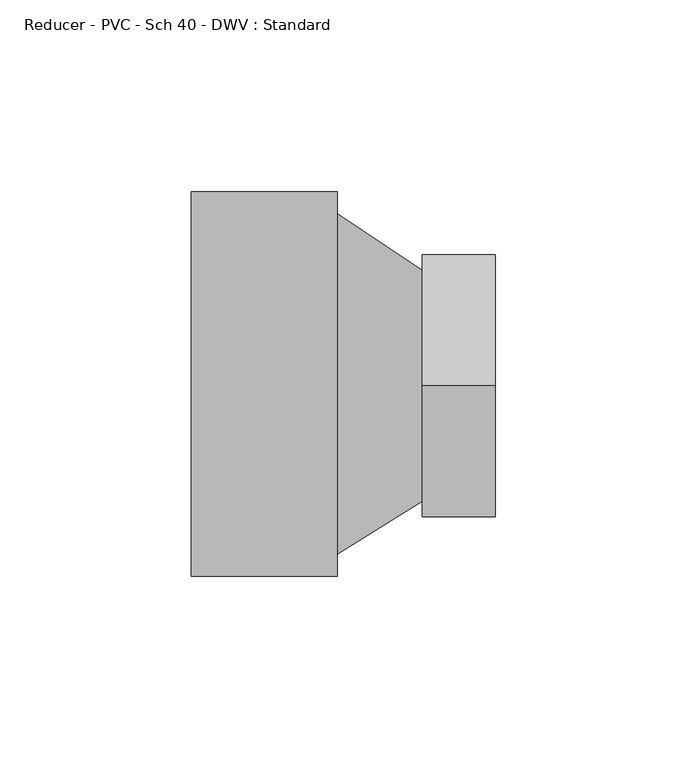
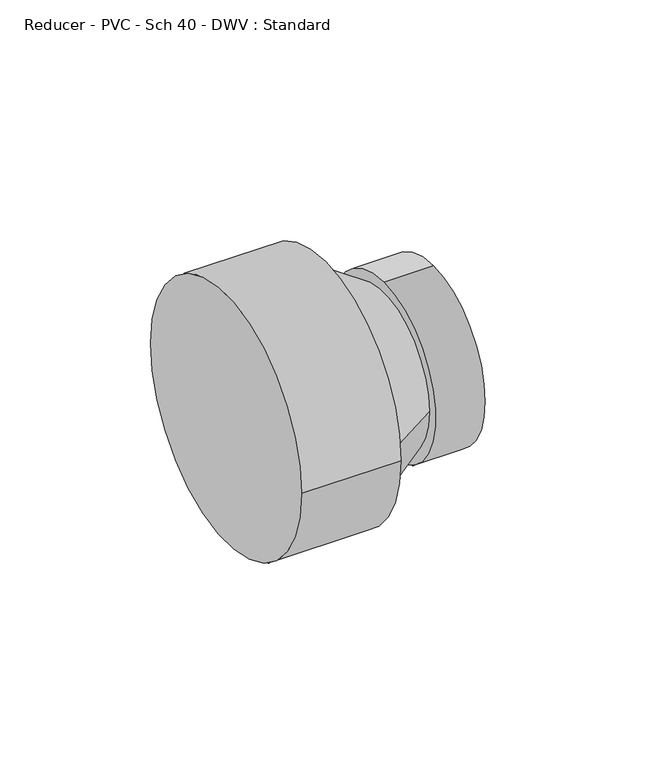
"""IFC4 building model written with IfcOpenShell, lengths in millimetres: pipe fitting geometry, Reducer - PVC - Sch 40 - DWV : Standard."""

from ifc_helpers import new_model, si_unit, frame, origin, place, context, project, spatial, circle_curve, source, transform, mapped, element, save
from ifc_brep_helpers import plane_surface, cylinder_surface, spline_surface, advanced_brep


def reducer_pvc_sch_40_dwv_standard_402c5ae0(model_context):
    return source(origin(), model_context, "Body", "AdvancedBrep", [
        advanced_brep(
        [(0.0, 50.2666, 0.0), (0.0, -50.2666, 0.0), (38.1, 50.2666, 0.0), (38.1, -50.2666, 0.0), (38.1, -44.45, 0.0), (38.1, 44.45, 0.0), (60.325, 29.7625, 0.0), (60.325, -30.5625, 0.0), (60.325, -0.4, 34.3154), (60.325, -0.4, -34.3154), (79.375, -0.4, 34.3154), (79.375, -0.4, -34.3154)],
        [
            (0, 1, circle_curve(frame((0.0, 0.0, 0.0), z_axis=(-1.0, 0.0, 0.0), x_axis=(0.0, -1.0, 0.0)), 50.2666)),
            (1, 0, circle_curve(frame((0.0, 0.0, 0.0), z_axis=(-1.0, 0.0, 0.0), x_axis=(0.0, -1.0, 0.0)), 50.2666)),
            (2, 3, circle_curve(frame((38.1, 0.0, 0.0), z_axis=(1.0, 0.0, 0.0), x_axis=(0.0, -1.0, 0.0)), 50.2666)),
            (3, 2, circle_curve(frame((38.1, 0.0, 0.0), z_axis=(1.0, 0.0, 0.0), x_axis=(0.0, -1.0, 0.0)), 50.2666)),
            (4, 5, circle_curve(frame((38.1, 0.0, 0.0), z_axis=(-1.0, 0.0, 0.0), x_axis=(0.0, -1.0, 0.0)), 44.45)),
            (5, 4, circle_curve(frame((38.1, 0.0, 0.0), z_axis=(-1.0, 0.0, 0.0), x_axis=(0.0, -1.0, 0.0)), 44.45)),
            (1, 3),
            (2, 0),
            (5, 6),
            (6, 7, circle_curve(frame((60.325, -0.4, 0.0), z_axis=(-1.0, 0.0, 0.0), x_axis=(0.0, -1.0, 0.0)), 30.1625)),
            (7, 4),
            (7, 6, circle_curve(frame((60.325, -0.4, 0.0), z_axis=(-1.0, 0.0, 0.0), x_axis=(0.0, -1.0, 0.0)), 30.1625)),
            (8, 9, circle_curve(frame((60.325, -0.4, 0.0), z_axis=(-1.0, 0.0, 0.0), x_axis=(0.0, 0.0, -1.0)), 34.3154)),
            (9, 8, circle_curve(frame((60.325, -0.4, 0.0), z_axis=(-1.0, 0.0, 0.0), x_axis=(0.0, 0.0, -1.0)), 34.3154)),
            (10, 11, circle_curve(frame((79.375, -0.4, 0.0), z_axis=(1.0, 0.0, 0.0), x_axis=(0.0, 0.0, -1.0)), 34.3154)),
            (11, 10, circle_curve(frame((79.375, -0.4, 0.0), z_axis=(1.0, 0.0, 0.0), x_axis=(0.0, 0.0, -1.0)), 34.3154)),
            (9, 11),
            (10, 8),
        ],
        [
            plane_surface(frame((0.0, 0.0, 0.0), z_axis=(-1.0, 0.0, 0.0), x_axis=(0.0, 0.0, 1.0))),
            plane_surface(frame((38.1, 0.0, 0.0), z_axis=(1.0, 0.0, 0.0), x_axis=(0.0, 0.0, 1.0))),
            cylinder_surface(frame((0.0, 0.0, 0.0), z_axis=(-1.0, 0.0, 0.0), x_axis=(0.0, -1.0, 0.0)), 50.2666),
            spline_surface(1, 2, [[(38.1, 44.45, 0.0), (38.1, 44.45, -44.45), (38.1, 0.0, -44.45), (38.1, -44.45, -44.45), (38.1, -44.45, 0.0)], [(60.325, 29.7625, 0.0), (60.325, 29.7625, -30.162499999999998), (60.325, -0.4, -30.162499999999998), (60.325, -30.562499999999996, -30.162499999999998), (60.325, -30.5625, 0.0)]], [2, 2], [3, 2, 3], [0.0, 1.0], [0.0, 1.0, 2.0], weights=[[1.0, 0.7071067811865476, 1.0, 0.7071067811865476, 1.0], [1.0, 0.7071067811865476, 1.0, 0.7071067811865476, 1.0]]),
            spline_surface(1, 2, [[(38.1, -44.45, 0.0), (38.1, -44.45, 44.45), (38.1, 0.0, 44.45), (38.1, 44.45, 44.45), (38.1, 44.45, 0.0)], [(60.325, -30.5625, 0.0), (60.325, -30.5625, 30.1625), (60.325, -0.4, 30.1625), (60.325, 29.762500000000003, 30.1625), (60.325, 29.7625, 0.0)]], [2, 2], [3, 2, 3], [0.0, 1.0], [0.0, 1.0, 2.0], weights=[[1.0, 0.7071067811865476, 1.0, 0.7071067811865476, 1.0], [1.0, 0.7071067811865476, 1.0, 0.7071067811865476, 1.0]]),
            plane_surface(frame((60.325, -0.4, 0.0), z_axis=(-1.0, 0.0, 0.0), x_axis=(0.0, -1.0, 0.0))),
            plane_surface(frame((79.375, -0.4, 0.0), z_axis=(1.0, 0.0, 0.0), x_axis=(0.0, -1.0, 0.0))),
            cylinder_surface(frame((60.325, -0.4, 0.0), z_axis=(-1.0, 0.0, 0.0), x_axis=(0.0, 0.0, -1.0)), 34.3154),
        ],
        [
            (0, [[1, 2]]),
            (1, [[3, 4], [5, 6]]),
            (2, [[7, -3, 8, -2]]),
            (2, [[-8, -4, -7, -1]]),
            (3, [[-6, 9, 10, 11]]),
            (4, [[12, -9, -5, -11]]),
            (5, [[13, 14], [-12, -10]]),
            (6, [[15, 16]]),
            (7, [[17, -15, 18, -14]]),
            (7, [[-18, -16, -17, -13]]),
        ],
    ),
    ])


if __name__ == "__main__":
    model = new_model("IFC4")
    model_context = context("Model", 3, world=origin())
    ifc_project = project(units=[si_unit("LENGTHUNIT", "METRE", prefix="MILLI")], contexts=[model_context])
    site = spatial("IfcSite", under=ifc_project)
    building = spatial("IfcBuilding", under=site)
    placement = place(None, origin())
    reducer_pvc_sch_40_dwv_standard_shape = reducer_pvc_sch_40_dwv_standard_402c5ae0(model_context)
    element("IfcPipeFitting", 1, ObjectType="Reducer - PVC - Sch 40 - DWV : Standard", at=placement, inside=building, context=model_context, shape_type="MappedRepresentation", body=[
        mapped(reducer_pvc_sch_40_dwv_standard_shape, transform((0.0, 0.0, 0.0), x_axis=(1.0, 0.0, 0.0), y_axis=(0.0, 1.0, 0.0), z_axis=(0.0, 0.0, 1.0))),
    ])
    save(model, "model.ifc")
